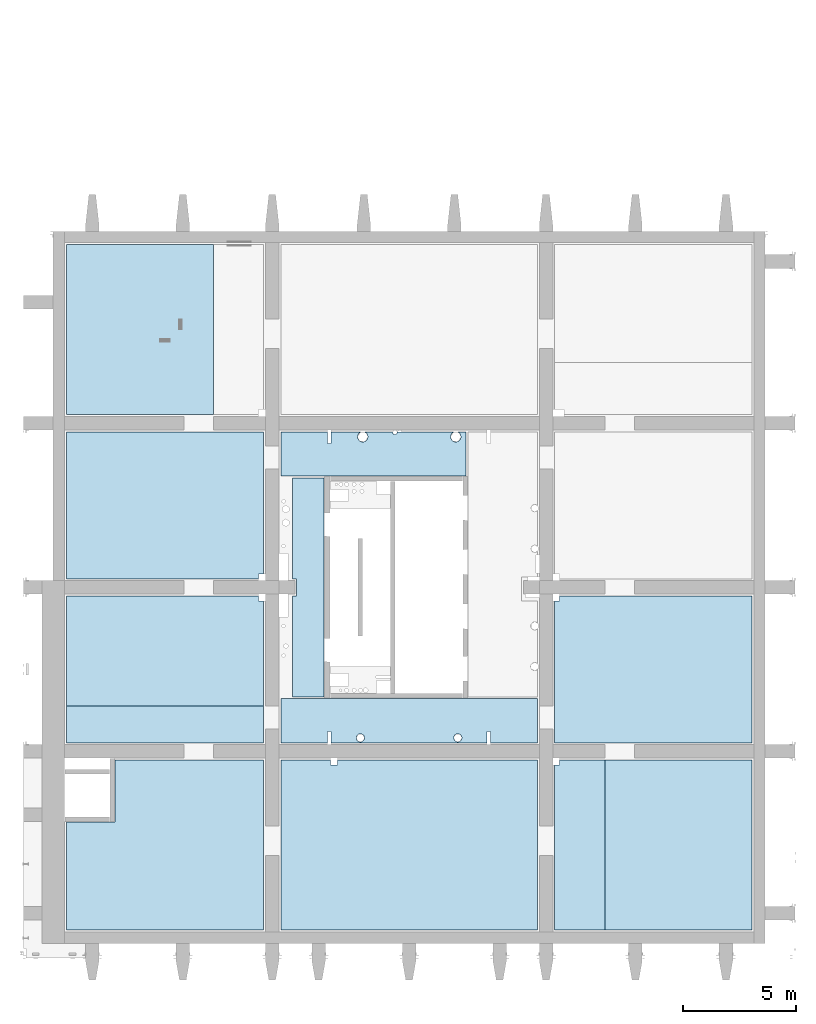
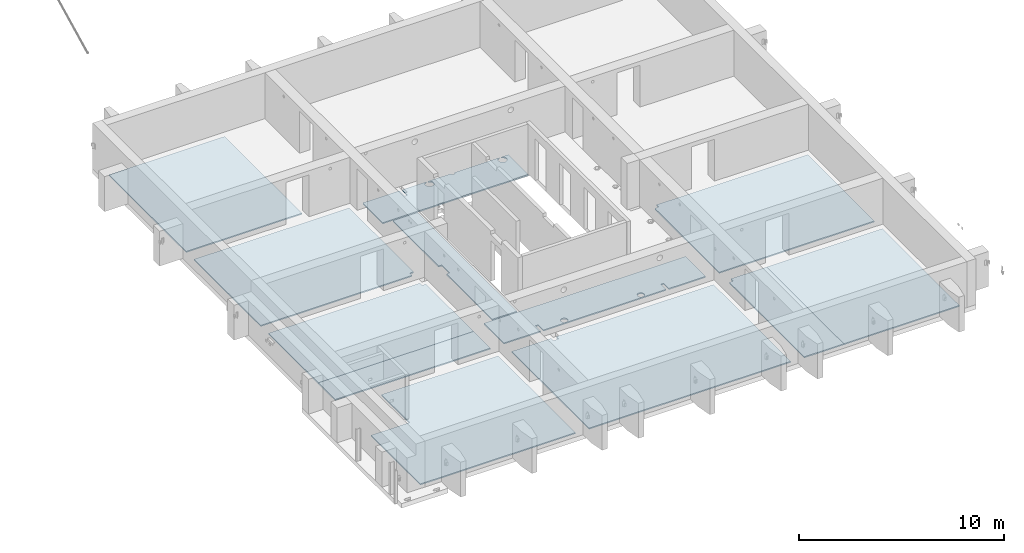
# One storey, part 17 of 22: 12 slabs, 68 openings.
"""IFC2X3 building model written with IfcOpenShell, lengths in millimetres."""

from ifc_helpers import new_model, entity, si_unit, converted_unit, derived_unit, direction, frame, frame_2d, origin, origin_2d_with_axis, place, context, subcontext, project, spatial, polyline, rectangle, circle, outline, extrude, material, layer, layer_set, layer_usage, element, save


model = new_model("IFC2X3")

# Units and contexts
model_context = context("Model", 3, precision=0.01, world=origin(), true_north=direction((6.12303176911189e-17, 1.0)))
body_context = subcontext(model_context, "Body", "Model", "MODEL_VIEW")
ifc_project = project(units=[si_unit("LENGTHUNIT", "METRE", prefix="MILLI"), si_unit("AREAUNIT", "SQUARE_METRE"), si_unit("VOLUMEUNIT", "CUBIC_METRE"), converted_unit("PLANEANGLEUNIT", "DEGREE", entity("IfcRatioMeasure", 0.0174532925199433), si_unit("PLANEANGLEUNIT", "RADIAN"), dimensions=[0, 0, 0, 0, 0, 0, 0]), si_unit("MASSUNIT", "GRAM", prefix="KILO"), derived_unit("MASSDENSITYUNIT", [(si_unit("MASSUNIT", "GRAM", prefix="KILO"), 1), (si_unit("LENGTHUNIT", "METRE"), -3)]), si_unit("TIMEUNIT", "SECOND"), si_unit("FREQUENCYUNIT", "HERTZ"), si_unit("THERMODYNAMICTEMPERATUREUNIT", "DEGREE_CELSIUS"), derived_unit("THERMALTRANSMITTANCEUNIT", [(si_unit("MASSUNIT", "GRAM", prefix="KILO"), 1), (si_unit("THERMODYNAMICTEMPERATUREUNIT", "KELVIN"), -1), (si_unit("TIMEUNIT", "SECOND"), -3)]), derived_unit("VOLUMETRICFLOWRATEUNIT", [(si_unit("LENGTHUNIT", "METRE"), 3), (si_unit("TIMEUNIT", "SECOND"), -1)]), si_unit("ELECTRICCURRENTUNIT", "AMPERE"), si_unit("ELECTRICVOLTAGEUNIT", "VOLT"), si_unit("POWERUNIT", "WATT"), si_unit("FORCEUNIT", "NEWTON", prefix="KILO"), si_unit("ILLUMINANCEUNIT", "LUX"), si_unit("LUMINOUSFLUXUNIT", "LUMEN"), si_unit("LUMINOUSINTENSITYUNIT", "CANDELA"), derived_unit("USERDEFINED", [(si_unit("MASSUNIT", "GRAM", prefix="KILO"), -1), (si_unit("LENGTHUNIT", "METRE"), -2), (si_unit("TIMEUNIT", "SECOND"), 3), (si_unit("LUMINOUSFLUXUNIT", "LUMEN"), 1)]), derived_unit("LINEARVELOCITYUNIT", [(si_unit("LENGTHUNIT", "METRE"), 1), (si_unit("TIMEUNIT", "SECOND"), -1)]), si_unit("PRESSUREUNIT", "PASCAL"), derived_unit("USERDEFINED", [(si_unit("LENGTHUNIT", "METRE"), -2), (si_unit("MASSUNIT", "GRAM", prefix="KILO"), 1), (si_unit("TIMEUNIT", "SECOND"), -2)])], contexts=[model_context])

# Site, building, storey
site_placement = place(None, origin())
site = spatial("IfcSite", under=ifc_project, at=site_placement, Name="Default", CompositionType="ELEMENT")
building_placement = place(site_placement, origin())
building = spatial("IfcBuilding", under=site, at=building_placement, Name="niet gebruiken", CompositionType="ELEMENT")
storey_placement = place(building_placement, frame((0.0, 0.0, 15000.0)))
storey = spatial("IfcBuildingStorey", under=building, at=storey_placement, Name="04 vierde verdieping", CompositionType="ELEMENT", Elevation=15000.0)

# Slab, openings
ifc_material = material(Name="NLRS_f2_beton prefab")
ifc_layer = layer(ifc_material, 70.0)
ifc_layer_set = layer_set([ifc_layer], Name="Floor:NLRS_23.21_FL_breedplaat d=70_gen")
ifc_layer_usage_1 = layer_usage(ifc_layer_set, "AXIS3", "POSITIVE", 0.0)
slab_1_placement = place(storey_placement, frame((126600.0, 2350.0, -360.0)))
slab_1 = element("IfcSlab", 1, at=slab_1_placement, inside=storey, material=ifc_layer_usage_1, Name="Floor:NLRS_23.21_FL_breedplaat d=70_gen", ObjectType="Floor:NLRS_23.21_FL_breedplaat d=70_gen", PredefinedType="FLOOR", context=body_context, shape_type="SweptSolid", body=[
    extrude(outline(polyline([(3180.0, -4958.0), (11900.0, -4958.0), (11900.0, -178.0), (9740.0, -178.0), (9740.0, 2562.0), (3180.0, 2562.0), (3180.0, -4958.0)])), frame((11900.0, 4958.0, 70.0), z_axis=(0.0, 0.0, -1.0), x_axis=(-1.0, 0.0, 0.0)), (0.0, 0.0, 1.0), 69.9999999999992),
])
placement_1 = place(slab_1_placement, origin())
element("IfcOpeningElement", 2, at=placement_1, cuts=slab_1, ObjectType="Opening", context=body_context, shape_type="SweptSolid", body=[
    extrude(rectangle(XDim=300.000000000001, YDim=300.000000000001, at=origin_2d_with_axis()), frame((21650.0, 7450.0, 0.0), z_axis=(0.0, 0.0, 1.0), x_axis=(0.0, 1.0, 0.0)), (0.0, 0.0, 1.0), 269.999999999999),
])
placement_2 = place(slab_1_placement, origin())
element("IfcOpeningElement", 3, at=placement_2, cuts=slab_1, ObjectType="Opening", context=body_context, shape_type="SweptSolid", body=[
    extrude(rectangle(XDim=300.000000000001, YDim=300.000000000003, at=origin_2d_with_axis()), frame((11835.0, 7450.0, 0.0), z_axis=(0.0, 0.0, 1.0), x_axis=(-1.0, 0.0, 0.0)), (0.0, 0.0, 1.0), 269.999999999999),
])

slab_2_placement = place(storey_placement, frame((126600.0, 2350.0, -360.0)))
slab_2 = element("IfcSlab", 4, at=slab_2_placement, inside=storey, material=ifc_layer_usage_1, Name="Floor:NLRS_23.21_FL_breedplaat d=70_gen:2", ObjectType="Floor:NLRS_23.21_FL_breedplaat d=70_gen", PredefinedType="FLOOR", context=body_context, shape_type="SweptSolid", body=[
    extrude(rectangle(XDim=7520.00000000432, YDim=2219.99999999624, at=frame_2d((-10790.0, -1198.0), x_axis=(0.0, -1.0))), frame((11900.0, 4958.0, 70.0), z_axis=(0.0, 0.0, -1.0), x_axis=(-1.0, 0.0, 0.0)), (0.0, 0.0, 1.0), 69.9999999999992),
])
element("IfcOpeningElement", 5, at=placement_1, cuts=slab_2, ObjectType="Opening", context=body_context, shape_type="SweptSolid", body=[
    extrude(rectangle(XDim=300.000000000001, YDim=300.000000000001, at=origin_2d_with_axis()), frame((21650.0, 7450.0, 0.0), z_axis=(0.0, 0.0, 1.0), x_axis=(0.0, 1.0, 0.0)), (0.0, 0.0, 1.0), 269.999999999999),
])
element("IfcOpeningElement", 6, at=placement_2, cuts=slab_2, ObjectType="Opening", context=body_context, shape_type="SweptSolid", body=[
    extrude(rectangle(XDim=300.000000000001, YDim=300.000000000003, at=origin_2d_with_axis()), frame((11835.0, 7450.0, 0.0), z_axis=(0.0, 0.0, 1.0), x_axis=(-1.0, 0.0, 0.0)), (0.0, 0.0, 1.0), 269.999999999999),
])

slab_3_placement = place(storey_placement, frame((126600.0, 2350.0, -360.0)))
slab_3 = element("IfcSlab", 7, at=slab_3_placement, inside=storey, material=ifc_layer_usage_1, Name="Floor:NLRS_23.21_FL_breedplaat d=70_gen:3", ObjectType="Floor:NLRS_23.21_FL_breedplaat d=70_gen", PredefinedType="FLOOR", context=body_context, shape_type="SweptSolid", body=[
    extrude(rectangle(XDim=7520.0000000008, YDim=11340.0000000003, at=frame_2d((-3250.0, -1198.0), x_axis=(0.0, 1.0))), frame((11900.0, 4958.0, 70.0), z_axis=(0.0, 0.0, -1.0), x_axis=(-1.0, 0.0, 0.0)), (0.0, 0.0, 1.0), 69.9999999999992),
])
element("IfcOpeningElement", 8, at=placement_1, cuts=slab_3, ObjectType="Opening", context=body_context, shape_type="SweptSolid", body=[
    extrude(rectangle(XDim=300.000000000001, YDim=300.000000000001, at=origin_2d_with_axis()), frame((21650.0, 7450.0, 0.0), z_axis=(0.0, 0.0, 1.0), x_axis=(0.0, 1.0, 0.0)), (0.0, 0.0, 1.0), 269.999999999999),
])
element("IfcOpeningElement", 9, at=placement_2, cuts=slab_3, ObjectType="Opening", context=body_context, shape_type="SweptSolid", body=[
    extrude(rectangle(XDim=300.000000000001, YDim=300.000000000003, at=origin_2d_with_axis()), frame((11835.0, 7450.0, 0.0), z_axis=(0.0, 0.0, 1.0), x_axis=(-1.0, 0.0, 0.0)), (0.0, 0.0, 1.0), 269.999999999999),
])

slab_4_placement = place(storey_placement, frame((126600.0, 2350.0, -360.0)))
slab_4 = element("IfcSlab", 10, at=slab_4_placement, inside=storey, material=ifc_layer_usage_1, Name="Floor:NLRS_23.21_FL_breedplaat d=70_gen:4", ObjectType="Floor:NLRS_23.21_FL_breedplaat d=70_gen", PredefinedType="FLOOR", context=body_context, shape_type="SweptSolid", body=[
    extrude(rectangle(XDim=8719.99999999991, YDim=1635.99999999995, at=frame_2d((7540.0, 4140.0), x_axis=(-1.0, 0.0))), frame((11900.0, 4958.0, 70.0), z_axis=(0.0, 0.0, -1.0), x_axis=(-1.0, 0.0, 0.0)), (0.0, 0.0, 1.0), 69.9999999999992),
])
element("IfcOpeningElement", 11, at=placement_1, cuts=slab_4, ObjectType="Opening", context=body_context, shape_type="SweptSolid", body=[
    extrude(rectangle(XDim=300.000000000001, YDim=300.000000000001, at=origin_2d_with_axis()), frame((21650.0, 7450.0, 0.0), z_axis=(0.0, 0.0, 1.0), x_axis=(0.0, 1.0, 0.0)), (0.0, 0.0, 1.0), 269.999999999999),
])
element("IfcOpeningElement", 12, at=placement_2, cuts=slab_4, ObjectType="Opening", context=body_context, shape_type="SweptSolid", body=[
    extrude(rectangle(XDim=300.000000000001, YDim=300.000000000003, at=origin_2d_with_axis()), frame((11835.0, 7450.0, 0.0), z_axis=(0.0, 0.0, 1.0), x_axis=(-1.0, 0.0, 0.0)), (0.0, 0.0, 1.0), 269.999999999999),
])

ifc_layer_usage_2 = layer_usage(ifc_layer_set, "AXIS3", "POSITIVE", 0.0)
slab_5_placement = place(storey_placement, frame((148180.0, 2350.0, -360.0)))
slab_5 = element("IfcSlab", 13, at=slab_5_placement, inside=storey, material=ifc_layer_usage_2, Name="Floor:NLRS_23.21_FL_breedplaat d=70_gen:2", ObjectType="Floor:NLRS_23.21_FL_breedplaat d=70_gen", PredefinedType="FLOOR", context=body_context, shape_type="SweptSolid", body=[
    extrude(rectangle(XDim=7520.00000000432, YDim=6499.99999999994, at=frame_2d((-1110.0, -8785.0), x_axis=(0.0, -1.0))), frame((4360.0, 12545.0, 70.0), z_axis=(0.0, 0.0, -1.0), x_axis=(-1.0, 0.0, 0.0)), (0.0, 0.0, 1.0), 69.9999999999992),
])
placement_3 = place(storey_placement, frame((148180.0, 2350.0, -360.0)))
placement_4 = place(placement_3, origin())
element("IfcOpeningElement", 14, at=placement_4, cuts=slab_5, ObjectType="Opening", context=body_context, shape_type="SweptSolid", body=[
    extrude(rectangle(XDim=500.000000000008, YDim=300.000000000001, at=origin_2d_with_axis()), frame((170.0, 22850.0, 0.0)), (0.0, 0.0, 1.0), 269.999999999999),
])
placement_5 = place(placement_3, origin())
element("IfcOpeningElement", 15, at=placement_5, cuts=slab_5, ObjectType="Opening", context=body_context, shape_type="SweptSolid", body=[
    extrude(rectangle(XDim=300.000000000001, YDim=300.000000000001, at=origin_2d_with_axis()), frame((70.0, 15600.0, 0.0), z_axis=(0.0, 0.0, 1.0), x_axis=(0.0, 1.0, 0.0)), (0.0, 0.0, 1.0), 269.999999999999),
])
placement_6 = place(placement_3, origin())
element("IfcOpeningElement", 16, at=placement_6, cuts=slab_5, ObjectType="Opening", context=body_context, shape_type="SweptSolid", body=[
    extrude(rectangle(XDim=300.000000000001, YDim=300.000000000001, at=origin_2d_with_axis()), frame((70.0, 14700.0, 0.0), z_axis=(0.0, 0.0, 1.0), x_axis=(0.0, 1.0, 0.0)), (0.0, 0.0, 1.0), 269.999999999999),
])

slab_6_placement = place(storey_placement, frame((148180.0, 2350.0, -360.0)))
slab_6 = element("IfcSlab", 17, at=slab_6_placement, inside=storey, material=ifc_layer_usage_2, Name="Floor:NLRS_23.21_FL_breedplaat d=70_gen:3", ObjectType="Floor:NLRS_23.21_FL_breedplaat d=70_gen", PredefinedType="FLOOR", context=body_context, shape_type="SweptSolid", body=[
    extrude(rectangle(XDim=8719.99999999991, YDim=6489.99999999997, at=frame_2d((0.0, -1020.0), x_axis=(1.0, 0.0))), frame((4360.0, 12545.0, 70.0), z_axis=(0.0, 0.0, -1.0), x_axis=(-1.0, 0.0, 0.0)), (0.0, 0.0, 1.0), 69.9999999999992),
])
element("IfcOpeningElement", 18, at=placement_4, cuts=slab_6, ObjectType="Opening", context=body_context, shape_type="SweptSolid", body=[
    extrude(rectangle(XDim=500.000000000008, YDim=300.000000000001, at=origin_2d_with_axis()), frame((170.0, 22850.0, 0.0)), (0.0, 0.0, 1.0), 269.999999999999),
])
element("IfcOpeningElement", 19, at=placement_5, cuts=slab_6, ObjectType="Opening", context=body_context, shape_type="SweptSolid", body=[
    extrude(rectangle(XDim=300.000000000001, YDim=300.000000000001, at=origin_2d_with_axis()), frame((70.0, 15600.0, 0.0), z_axis=(0.0, 0.0, 1.0), x_axis=(0.0, 1.0, 0.0)), (0.0, 0.0, 1.0), 269.999999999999),
])
element("IfcOpeningElement", 20, at=placement_6, cuts=slab_6, ObjectType="Opening", context=body_context, shape_type="SweptSolid", body=[
    extrude(rectangle(XDim=300.000000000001, YDim=300.000000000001, at=origin_2d_with_axis()), frame((70.0, 14700.0, 0.0), z_axis=(0.0, 0.0, 1.0), x_axis=(0.0, 1.0, 0.0)), (0.0, 0.0, 1.0), 269.999999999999),
])

ifc_layer_usage_3 = layer_usage(ifc_layer_set, "AXIS3", "POSITIVE", 0.0)
slab_7_placement = place(storey_placement, frame((126600.0, 12266.0, -360.0)))
slab_7 = element("IfcSlab", 21, at=slab_7_placement, inside=storey, material=ifc_layer_usage_3, Name="Floor:NLRS_23.21_FL_breedplaat d=70_gen", ObjectType="Floor:NLRS_23.21_FL_breedplaat d=70_gen", PredefinedType="FLOOR", context=body_context, shape_type="SweptSolid", body=[
    extrude(rectangle(XDim=7520.00000000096, YDim=6500.00000000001, at=frame_2d((1110.0, 6432.0), x_axis=(0.0, 1.0))), frame((4360.0, 10192.0, 70.0), z_axis=(0.0, 0.0, -1.0), x_axis=(-1.0, 0.0, 0.0)), (0.0, 0.0, 1.0), 69.9999999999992),
])
placement_7 = place(slab_7_placement, origin())
element("IfcOpeningElement", 22, at=placement_7, cuts=slab_7, ObjectType="Opening", context=body_context, shape_type="SweptSolid", body=[
    extrude(rectangle(XDim=300.000000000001, YDim=300.000000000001, at=origin_2d_with_axis()), frame((8650.0, 4784.0, 0.0), z_axis=(0.0, 0.0, 1.0), x_axis=(0.0, 1.0, 0.0)), (0.0, 0.0, 1.0), 269.999999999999),
])
placement_8 = place(slab_7_placement, origin())
element("IfcOpeningElement", 23, at=placement_8, cuts=slab_7, ObjectType="Opening", context=body_context, shape_type="SweptSolid", body=[
    extrude(rectangle(XDim=300.000000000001, YDim=300.000000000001, at=origin_2d_with_axis()), frame((8650.0, 5684.0, 0.0), z_axis=(0.0, 0.0, 1.0), x_axis=(0.0, 1.0, 0.0)), (0.0, 0.0, 1.0), 269.999999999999),
])

slab_8_placement = place(storey_placement, frame((126600.0, 12266.0, -360.0)))
slab_8 = element("IfcSlab", 24, at=slab_8_placement, inside=storey, material=ifc_layer_usage_3, Name="Floor:NLRS_23.21_FL_breedplaat d=70_gen:2", ObjectType="Floor:NLRS_23.21_FL_breedplaat d=70_gen", PredefinedType="FLOOR", context=body_context, shape_type="SweptSolid", body=[
    extrude(rectangle(XDim=6490.00000000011, YDim=8720.00000000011, at=frame_2d((0.0, -1333.0), x_axis=(0.0, -1.0))), frame((4360.0, 10192.0, 70.0), z_axis=(0.0, 0.0, -1.0), x_axis=(-1.0, 0.0, 0.0)), (0.0, 0.0, 1.0), 69.9999999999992),
])
element("IfcOpeningElement", 25, at=placement_7, cuts=slab_8, ObjectType="Opening", context=body_context, shape_type="SweptSolid", body=[
    extrude(rectangle(XDim=300.000000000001, YDim=300.000000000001, at=origin_2d_with_axis()), frame((8650.0, 4784.0, 0.0), z_axis=(0.0, 0.0, 1.0), x_axis=(0.0, 1.0, 0.0)), (0.0, 0.0, 1.0), 269.999999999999),
])
element("IfcOpeningElement", 26, at=placement_8, cuts=slab_8, ObjectType="Opening", context=body_context, shape_type="SweptSolid", body=[
    extrude(rectangle(XDim=300.000000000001, YDim=300.000000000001, at=origin_2d_with_axis()), frame((8650.0, 5684.0, 0.0), z_axis=(0.0, 0.0, 1.0), x_axis=(0.0, 1.0, 0.0)), (0.0, 0.0, 1.0), 269.999999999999),
])

slab_9_placement = place(storey_placement, frame((126600.0, 12266.0, -360.0)))
slab_9 = element("IfcSlab", 27, at=slab_9_placement, inside=storey, material=ifc_layer_usage_3, Name="Floor:NLRS_23.21_FL_breedplaat d=70_gen:3", ObjectType="Floor:NLRS_23.21_FL_breedplaat d=70_gen", PredefinedType="FLOOR", context=body_context, shape_type="SweptSolid", body=[
    extrude(rectangle(XDim=8720.00000000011, YDim=4854.00000000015, at=frame_2d((0.0, -7765.0), x_axis=(-1.0, 0.0))), frame((4360.0, 10192.0, 70.0), z_axis=(0.0, 0.0, -1.0), x_axis=(-1.0, 0.0, 0.0)), (0.0, 0.0, 1.0), 69.9999999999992),
])
element("IfcOpeningElement", 28, at=placement_7, cuts=slab_9, ObjectType="Opening", context=body_context, shape_type="SweptSolid", body=[
    extrude(rectangle(XDim=300.000000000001, YDim=300.000000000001, at=origin_2d_with_axis()), frame((8650.0, 4784.0, 0.0), z_axis=(0.0, 0.0, 1.0), x_axis=(0.0, 1.0, 0.0)), (0.0, 0.0, 1.0), 269.999999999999),
])
element("IfcOpeningElement", 29, at=placement_8, cuts=slab_9, ObjectType="Opening", context=body_context, shape_type="SweptSolid", body=[
    extrude(rectangle(XDim=300.000000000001, YDim=300.000000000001, at=origin_2d_with_axis()), frame((8650.0, 5684.0, 0.0), z_axis=(0.0, 0.0, 1.0), x_axis=(0.0, 1.0, 0.0)), (0.0, 0.0, 1.0), 269.999999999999),
])

ifc_layer_usage_4 = layer_usage(ifc_layer_set, "AXIS3", "POSITIVE", 0.0)
slab_10_placement = place(storey_placement, frame((136080.0, 10630.0, -330.0)))
slab_10 = element("IfcSlab", 30, at=slab_10_placement, inside=storey, material=ifc_layer_usage_4, Name="Floor:NLRS_23.21_FL_breedplaat d=70_gen", ObjectType="Floor:NLRS_23.21_FL_breedplaat d=70_gen", PredefinedType="FLOOR", context=body_context, shape_type="SweptSolid", body=[
    extrude(outline(polyline([(5150.0, -4840.0), (5150.0, -380.0), (4970.0, -380.0), (4970.0, 380.0), (5150.0, 380.0), (5150.0, 4840.0), (3770.0, 4840.0), (3770.0, -4840.0), (5150.0, -4840.0)])), frame((5670.0, 6870.0, 70.0), z_axis=(0.0, 0.0, -1.0), x_axis=(-1.0, 0.0, 0.0)), (0.0, 0.0, 1.0), 69.9999999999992),
])
placement_9 = place(slab_10_placement, origin())
element("IfcOpeningElement", 31, at=placement_9, cuts=slab_10, ObjectType="Opening", context=body_context, shape_type="SweptSolid", body=[
    extrude(rectangle(XDim=800.0, YDim=140.000000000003, at=origin_2d_with_axis()), frame((11350.0, 7894.49999999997, 0.0), z_axis=(0.0, 0.0, 1.0), x_axis=(0.0, -1.0, 0.0)), (0.0, 0.0, 1.0), 240.0),
])
placement_10 = place(slab_10_placement, origin())
element("IfcOpeningElement", 32, at=placement_10, cuts=slab_10, ObjectType="Opening", context=body_context, shape_type="SweptSolid", body=[
    extrude(rectangle(XDim=150.000000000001, YDim=590.000000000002, at=origin_2d_with_axis()), frame((2145.0, 215.0, 0.0)), (0.0, 0.0, 1.0), 240.0),
])
placement_11 = place(slab_10_placement, origin())
element("IfcOpeningElement", 33, at=placement_11, cuts=slab_10, ObjectType="Opening", context=body_context, shape_type="SweptSolid", body=[
    extrude(rectangle(XDim=150.000000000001, YDim=590.000000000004, at=origin_2d_with_axis()), frame((2145.0, 13525.207422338, 0.0)), (0.0, 0.0, 1.0), 240.0),
])
placement_12 = place(slab_10_placement, origin())
element("IfcOpeningElement", 34, at=placement_12, cuts=slab_10, ObjectType="Opening", context=body_context, shape_type="SweptSolid", body=[
    extrude(circle(Radius=225.0, at=origin_2d_with_axis()), frame((3620.0, 13520.0, 0.0), z_axis=(0.0, 0.0, 1.0), x_axis=(-1.0, 0.0, 0.0)), (0.0, 0.0, 1.0), 240.0),
])
placement_13 = place(slab_10_placement, origin())
element("IfcOpeningElement", 35, at=placement_13, cuts=slab_10, ObjectType="Opening", context=body_context, shape_type="SweptSolid", body=[
    extrude(circle(Radius=225.0, at=origin_2d_with_axis()), frame((7730.0, 13520.0, 0.0), z_axis=(0.0, 0.0, 1.0), x_axis=(-1.0, 0.0, 0.0)), (0.0, 0.0, 1.0), 240.0),
])
placement_14 = place(slab_10_placement, origin())
element("IfcOpeningElement", 36, at=placement_14, cuts=slab_10, ObjectType="Opening", context=body_context, shape_type="SweptSolid", body=[
    extrude(rectangle(XDim=150.000000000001, YDim=600.000000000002, at=origin_2d_with_axis()), frame((9195.0218950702, 13520.0, 0.0)), (0.0, 0.0, 1.0), 240.0),
])
placement_15 = place(slab_10_placement, origin())
element("IfcOpeningElement", 37, at=placement_15, cuts=slab_10, ObjectType="Opening", context=body_context, shape_type="SweptSolid", body=[
    extrude(rectangle(XDim=490.00000000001, YDim=150.000000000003, at=origin_2d_with_axis()), frame((11175.0, 7245.0, 0.0)), (0.0, 0.0, 1.0), 240.0),
])
placement_16 = place(slab_10_placement, origin())
element("IfcOpeningElement", 38, at=placement_16, cuts=slab_10, ObjectType="Opening", context=body_context, shape_type="SweptSolid", body=[
    extrude(rectangle(XDim=150.000000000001, YDim=590.000000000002, at=origin_2d_with_axis()), frame((9195.0, 215.0, 0.0)), (0.0, 0.0, 1.0), 240.0),
])
placement_17 = place(slab_10_placement, origin())
element("IfcOpeningElement", 39, at=placement_17, cuts=slab_10, ObjectType="Opening", context=body_context, shape_type="SweptSolid", body=[
    extrude(circle(Radius=100.0, at=origin_2d_with_axis()), frame((5044.86122070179, 13719.9503906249, 0.0), z_axis=(0.0, 0.0, 1.0), x_axis=(-1.0, 0.0, 0.0)), (0.0, 0.0, 1.0), 240.0),
])
placement_18 = place(slab_10_placement, origin())
element("IfcOpeningElement", 40, at=placement_18, cuts=slab_10, ObjectType="Opening", context=body_context, shape_type="SweptSolid", body=[
    extrude(circle(Radius=177.5, at=origin_2d_with_axis()), frame((11219.0502495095, 3370.0, 0.0), z_axis=(0.0, 0.0, 1.0), x_axis=(0.0, 1.0, 0.0)), (0.0, 0.0, 1.0), 240.0),
])
placement_19 = place(slab_10_placement, origin())
element("IfcOpeningElement", 41, at=placement_19, cuts=slab_10, ObjectType="Opening", context=body_context, shape_type="SweptSolid", body=[
    extrude(circle(Radius=177.5, at=origin_2d_with_axis()), frame((11220.0443647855, 5165.0, 0.0), z_axis=(0.0, 0.0, 1.0), x_axis=(0.0, 1.0, 0.0)), (0.0, 0.0, 1.0), 240.0),
])
placement_20 = place(slab_10_placement, origin())
element("IfcOpeningElement", 42, at=placement_20, cuts=slab_10, ObjectType="Opening", context=body_context, shape_type="SweptSolid", body=[
    extrude(circle(Radius=160.0, at=origin_2d_with_axis()), frame((11220.0, 8574.95038231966, 0.0), z_axis=(0.0, 0.0, 1.0), x_axis=(0.0, 1.0, 0.0)), (0.0, 0.0, 1.0), 240.0),
])
placement_21 = place(slab_10_placement, origin())
element("IfcOpeningElement", 43, at=placement_21, cuts=slab_10, ObjectType="Opening", context=body_context, shape_type="SweptSolid", body=[
    extrude(circle(Radius=160.0, at=origin_2d_with_axis()), frame((11220.0, 10370.0, 0.0), z_axis=(0.0, 0.0, 1.0), x_axis=(0.0, 1.0, 0.0)), (0.0, 0.0, 1.0), 240.0),
])
placement_22 = place(slab_10_placement, origin())
element("IfcOpeningElement", 44, at=placement_22, cuts=slab_10, ObjectType="Opening", context=body_context, shape_type="SweptSolid", body=[
    extrude(circle(Radius=177.5, at=origin_2d_with_axis()), frame((3515.0, 220.0, 0.0), z_axis=(0.0, 0.0, 1.0), x_axis=(-1.0, 0.0, 0.0)), (0.0, 0.0, 1.0), 240.0),
])
placement_23 = place(slab_10_placement, origin())
element("IfcOpeningElement", 45, at=placement_23, cuts=slab_10, ObjectType="Opening", context=body_context, shape_type="SweptSolid", body=[
    extrude(circle(Radius=177.5, at=origin_2d_with_axis()), frame((7820.0, 220.0, 0.0), z_axis=(0.0, 0.0, 1.0), x_axis=(-1.0, 0.0, 0.0)), (0.0, 0.0, 1.0), 240.0),
])
placement_24 = place(slab_10_placement, origin())
element("IfcOpeningElement", 46, at=placement_24, cuts=slab_10, ObjectType="Opening", context=body_context, shape_type="SweptSolid", body=[
    extrude(rectangle(XDim=600.000000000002, YDim=155.000000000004, at=origin_2d_with_axis()), frame((11120.0, 6492.49999999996, 0.0)), (0.0, 0.0, 1.0), 240.0),
])

slab_11_placement = place(storey_placement, frame((136080.0, 10630.0, -330.0)))
slab_11 = element("IfcSlab", 47, at=slab_11_placement, inside=storey, material=ifc_layer_usage_4, Name="Floor:NLRS_23.21_FL_breedplaat d=70_gen:2", ObjectType="Floor:NLRS_23.21_FL_breedplaat d=70_gen", PredefinedType="FLOOR", context=body_context, shape_type="SweptSolid", body=[
    extrude(rectangle(XDim=1949.99999999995, YDim=11340.0000000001, at=frame_2d((0.0, -5895.0), x_axis=(0.0, 1.0))), frame((5670.0, 6870.0, 70.0), z_axis=(0.0, 0.0, -1.0), x_axis=(-1.0, 0.0, 0.0)), (0.0, 0.0, 1.0), 69.9999999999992),
])
element("IfcOpeningElement", 48, at=placement_9, cuts=slab_11, ObjectType="Opening", context=body_context, shape_type="SweptSolid", body=[
    extrude(rectangle(XDim=800.0, YDim=140.000000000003, at=origin_2d_with_axis()), frame((11350.0, 7894.49999999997, 0.0), z_axis=(0.0, 0.0, 1.0), x_axis=(0.0, -1.0, 0.0)), (0.0, 0.0, 1.0), 240.0),
])
element("IfcOpeningElement", 49, at=placement_10, cuts=slab_11, ObjectType="Opening", context=body_context, shape_type="SweptSolid", body=[
    extrude(rectangle(XDim=150.000000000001, YDim=590.000000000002, at=origin_2d_with_axis()), frame((2145.0, 215.0, 0.0)), (0.0, 0.0, 1.0), 240.0),
])
element("IfcOpeningElement", 50, at=placement_11, cuts=slab_11, ObjectType="Opening", context=body_context, shape_type="SweptSolid", body=[
    extrude(rectangle(XDim=150.000000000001, YDim=590.000000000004, at=origin_2d_with_axis()), frame((2145.0, 13525.207422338, 0.0)), (0.0, 0.0, 1.0), 240.0),
])
element("IfcOpeningElement", 51, at=placement_12, cuts=slab_11, ObjectType="Opening", context=body_context, shape_type="SweptSolid", body=[
    extrude(circle(Radius=225.0, at=origin_2d_with_axis()), frame((3620.0, 13520.0, 0.0), z_axis=(0.0, 0.0, 1.0), x_axis=(-1.0, 0.0, 0.0)), (0.0, 0.0, 1.0), 240.0),
])
element("IfcOpeningElement", 52, at=placement_13, cuts=slab_11, ObjectType="Opening", context=body_context, shape_type="SweptSolid", body=[
    extrude(circle(Radius=225.0, at=origin_2d_with_axis()), frame((7730.0, 13520.0, 0.0), z_axis=(0.0, 0.0, 1.0), x_axis=(-1.0, 0.0, 0.0)), (0.0, 0.0, 1.0), 240.0),
])
element("IfcOpeningElement", 53, at=placement_14, cuts=slab_11, ObjectType="Opening", context=body_context, shape_type="SweptSolid", body=[
    extrude(rectangle(XDim=150.000000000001, YDim=600.000000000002, at=origin_2d_with_axis()), frame((9195.0218950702, 13520.0, 0.0)), (0.0, 0.0, 1.0), 240.0),
])
element("IfcOpeningElement", 54, at=placement_15, cuts=slab_11, ObjectType="Opening", context=body_context, shape_type="SweptSolid", body=[
    extrude(rectangle(XDim=490.00000000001, YDim=150.000000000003, at=origin_2d_with_axis()), frame((11175.0, 7245.0, 0.0)), (0.0, 0.0, 1.0), 240.0),
])
element("IfcOpeningElement", 55, at=placement_16, cuts=slab_11, ObjectType="Opening", context=body_context, shape_type="SweptSolid", body=[
    extrude(rectangle(XDim=150.000000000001, YDim=590.000000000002, at=origin_2d_with_axis()), frame((9195.0, 215.0, 0.0)), (0.0, 0.0, 1.0), 240.0),
])
element("IfcOpeningElement", 56, at=placement_17, cuts=slab_11, ObjectType="Opening", context=body_context, shape_type="SweptSolid", body=[
    extrude(circle(Radius=100.0, at=origin_2d_with_axis()), frame((5044.86122070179, 13719.9503906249, 0.0), z_axis=(0.0, 0.0, 1.0), x_axis=(-1.0, 0.0, 0.0)), (0.0, 0.0, 1.0), 240.0),
])
element("IfcOpeningElement", 57, at=placement_18, cuts=slab_11, ObjectType="Opening", context=body_context, shape_type="SweptSolid", body=[
    extrude(circle(Radius=177.5, at=origin_2d_with_axis()), frame((11219.0502495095, 3370.0, 0.0), z_axis=(0.0, 0.0, 1.0), x_axis=(0.0, 1.0, 0.0)), (0.0, 0.0, 1.0), 240.0),
])
element("IfcOpeningElement", 58, at=placement_19, cuts=slab_11, ObjectType="Opening", context=body_context, shape_type="SweptSolid", body=[
    extrude(circle(Radius=177.5, at=origin_2d_with_axis()), frame((11220.0443647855, 5165.0, 0.0), z_axis=(0.0, 0.0, 1.0), x_axis=(0.0, 1.0, 0.0)), (0.0, 0.0, 1.0), 240.0),
])
element("IfcOpeningElement", 59, at=placement_20, cuts=slab_11, ObjectType="Opening", context=body_context, shape_type="SweptSolid", body=[
    extrude(circle(Radius=160.0, at=origin_2d_with_axis()), frame((11220.0, 8574.95038231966, 0.0), z_axis=(0.0, 0.0, 1.0), x_axis=(0.0, 1.0, 0.0)), (0.0, 0.0, 1.0), 240.0),
])
element("IfcOpeningElement", 60, at=placement_21, cuts=slab_11, ObjectType="Opening", context=body_context, shape_type="SweptSolid", body=[
    extrude(circle(Radius=160.0, at=origin_2d_with_axis()), frame((11220.0, 10370.0, 0.0), z_axis=(0.0, 0.0, 1.0), x_axis=(0.0, 1.0, 0.0)), (0.0, 0.0, 1.0), 240.0),
])
element("IfcOpeningElement", 61, at=placement_22, cuts=slab_11, ObjectType="Opening", context=body_context, shape_type="SweptSolid", body=[
    extrude(circle(Radius=177.5, at=origin_2d_with_axis()), frame((3515.0, 220.0, 0.0), z_axis=(0.0, 0.0, 1.0), x_axis=(-1.0, 0.0, 0.0)), (0.0, 0.0, 1.0), 240.0),
])
element("IfcOpeningElement", 62, at=placement_23, cuts=slab_11, ObjectType="Opening", context=body_context, shape_type="SweptSolid", body=[
    extrude(circle(Radius=177.5, at=origin_2d_with_axis()), frame((7820.0, 220.0, 0.0), z_axis=(0.0, 0.0, 1.0), x_axis=(-1.0, 0.0, 0.0)), (0.0, 0.0, 1.0), 240.0),
])
element("IfcOpeningElement", 63, at=placement_24, cuts=slab_11, ObjectType="Opening", context=body_context, shape_type="SweptSolid", body=[
    extrude(rectangle(XDim=600.000000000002, YDim=155.000000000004, at=origin_2d_with_axis()), frame((11120.0, 6492.49999999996, 0.0)), (0.0, 0.0, 1.0), 240.0),
])

slab_12_placement = place(storey_placement, frame((136080.0, 10630.0, -330.0)))
slab_12 = element("IfcSlab", 64, at=slab_12_placement, inside=storey, material=ifc_layer_usage_4, Name="Floor:NLRS_23.21_FL_breedplaat d=70_gen:3", ObjectType="Floor:NLRS_23.21_FL_breedplaat d=70_gen", PredefinedType="FLOOR", context=body_context, shape_type="SweptSolid", body=[
    extrude(rectangle(XDim=8189.99999999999, YDim=1949.99999999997, at=frame_2d((1575.0, 5895.0), x_axis=(-1.0, 0.0))), frame((5670.0, 6870.0, 70.0), z_axis=(0.0, 0.0, -1.0), x_axis=(-1.0, 0.0, 0.0)), (0.0, 0.0, 1.0), 69.9999999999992),
])
element("IfcOpeningElement", 65, at=placement_9, cuts=slab_12, ObjectType="Opening", context=body_context, shape_type="SweptSolid", body=[
    extrude(rectangle(XDim=800.0, YDim=140.000000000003, at=origin_2d_with_axis()), frame((11350.0, 7894.49999999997, 0.0), z_axis=(0.0, 0.0, 1.0), x_axis=(0.0, -1.0, 0.0)), (0.0, 0.0, 1.0), 240.0),
])
element("IfcOpeningElement", 66, at=placement_10, cuts=slab_12, ObjectType="Opening", context=body_context, shape_type="SweptSolid", body=[
    extrude(rectangle(XDim=150.000000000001, YDim=590.000000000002, at=origin_2d_with_axis()), frame((2145.0, 215.0, 0.0)), (0.0, 0.0, 1.0), 240.0),
])
element("IfcOpeningElement", 67, at=placement_11, cuts=slab_12, ObjectType="Opening", context=body_context, shape_type="SweptSolid", body=[
    extrude(rectangle(XDim=150.000000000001, YDim=590.000000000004, at=origin_2d_with_axis()), frame((2145.0, 13525.207422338, 0.0)), (0.0, 0.0, 1.0), 240.0),
])
element("IfcOpeningElement", 68, at=placement_12, cuts=slab_12, ObjectType="Opening", context=body_context, shape_type="SweptSolid", body=[
    extrude(circle(Radius=225.0, at=origin_2d_with_axis()), frame((3620.0, 13520.0, 0.0), z_axis=(0.0, 0.0, 1.0), x_axis=(-1.0, 0.0, 0.0)), (0.0, 0.0, 1.0), 240.0),
])
element("IfcOpeningElement", 69, at=placement_13, cuts=slab_12, ObjectType="Opening", context=body_context, shape_type="SweptSolid", body=[
    extrude(circle(Radius=225.0, at=origin_2d_with_axis()), frame((7730.0, 13520.0, 0.0), z_axis=(0.0, 0.0, 1.0), x_axis=(-1.0, 0.0, 0.0)), (0.0, 0.0, 1.0), 240.0),
])
element("IfcOpeningElement", 70, at=placement_14, cuts=slab_12, ObjectType="Opening", context=body_context, shape_type="SweptSolid", body=[
    extrude(rectangle(XDim=150.000000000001, YDim=600.000000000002, at=origin_2d_with_axis()), frame((9195.0218950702, 13520.0, 0.0)), (0.0, 0.0, 1.0), 240.0),
])
element("IfcOpeningElement", 71, at=placement_15, cuts=slab_12, ObjectType="Opening", context=body_context, shape_type="SweptSolid", body=[
    extrude(rectangle(XDim=490.00000000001, YDim=150.000000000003, at=origin_2d_with_axis()), frame((11175.0, 7245.0, 0.0)), (0.0, 0.0, 1.0), 240.0),
])
element("IfcOpeningElement", 72, at=placement_16, cuts=slab_12, ObjectType="Opening", context=body_context, shape_type="SweptSolid", body=[
    extrude(rectangle(XDim=150.000000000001, YDim=590.000000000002, at=origin_2d_with_axis()), frame((9195.0, 215.0, 0.0)), (0.0, 0.0, 1.0), 240.0),
])
element("IfcOpeningElement", 73, at=placement_17, cuts=slab_12, ObjectType="Opening", context=body_context, shape_type="SweptSolid", body=[
    extrude(circle(Radius=100.0, at=origin_2d_with_axis()), frame((5044.86122070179, 13719.9503906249, 0.0), z_axis=(0.0, 0.0, 1.0), x_axis=(-1.0, 0.0, 0.0)), (0.0, 0.0, 1.0), 240.0),
])
element("IfcOpeningElement", 74, at=placement_18, cuts=slab_12, ObjectType="Opening", context=body_context, shape_type="SweptSolid", body=[
    extrude(circle(Radius=177.5, at=origin_2d_with_axis()), frame((11219.0502495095, 3370.0, 0.0), z_axis=(0.0, 0.0, 1.0), x_axis=(0.0, 1.0, 0.0)), (0.0, 0.0, 1.0), 240.0),
])
element("IfcOpeningElement", 75, at=placement_19, cuts=slab_12, ObjectType="Opening", context=body_context, shape_type="SweptSolid", body=[
    extrude(circle(Radius=177.5, at=origin_2d_with_axis()), frame((11220.0443647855, 5165.0, 0.0), z_axis=(0.0, 0.0, 1.0), x_axis=(0.0, 1.0, 0.0)), (0.0, 0.0, 1.0), 240.0),
])
element("IfcOpeningElement", 76, at=placement_20, cuts=slab_12, ObjectType="Opening", context=body_context, shape_type="SweptSolid", body=[
    extrude(circle(Radius=160.0, at=origin_2d_with_axis()), frame((11220.0, 8574.95038231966, 0.0), z_axis=(0.0, 0.0, 1.0), x_axis=(0.0, 1.0, 0.0)), (0.0, 0.0, 1.0), 240.0),
])
element("IfcOpeningElement", 77, at=placement_21, cuts=slab_12, ObjectType="Opening", context=body_context, shape_type="SweptSolid", body=[
    extrude(circle(Radius=160.0, at=origin_2d_with_axis()), frame((11220.0, 10370.0, 0.0), z_axis=(0.0, 0.0, 1.0), x_axis=(0.0, 1.0, 0.0)), (0.0, 0.0, 1.0), 240.0),
])
element("IfcOpeningElement", 78, at=placement_22, cuts=slab_12, ObjectType="Opening", context=body_context, shape_type="SweptSolid", body=[
    extrude(circle(Radius=177.5, at=origin_2d_with_axis()), frame((3515.0, 220.0, 0.0), z_axis=(0.0, 0.0, 1.0), x_axis=(-1.0, 0.0, 0.0)), (0.0, 0.0, 1.0), 240.0),
])
element("IfcOpeningElement", 79, at=placement_23, cuts=slab_12, ObjectType="Opening", context=body_context, shape_type="SweptSolid", body=[
    extrude(circle(Radius=177.5, at=origin_2d_with_axis()), frame((7820.0, 220.0, 0.0), z_axis=(0.0, 0.0, 1.0), x_axis=(-1.0, 0.0, 0.0)), (0.0, 0.0, 1.0), 240.0),
])
element("IfcOpeningElement", 80, at=placement_24, cuts=slab_12, ObjectType="Opening", context=body_context, shape_type="SweptSolid", body=[
    extrude(rectangle(XDim=600.000000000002, YDim=155.000000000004, at=origin_2d_with_axis()), frame((11120.0, 6492.49999999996, 0.0)), (0.0, 0.0, 1.0), 240.0),
])

save(model, "model.ifc")
